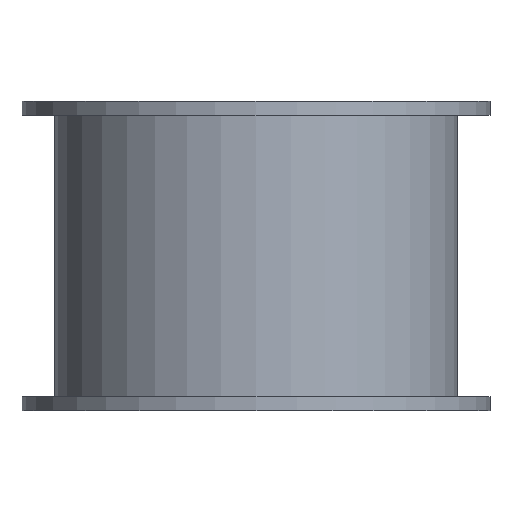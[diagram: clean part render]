
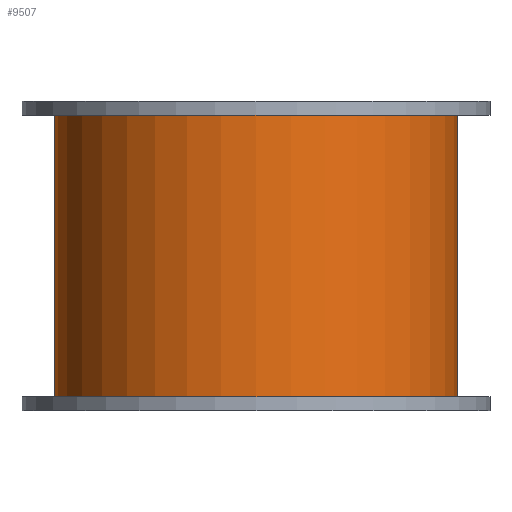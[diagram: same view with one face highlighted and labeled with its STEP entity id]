
A CAD part, front view. The second image highlights one B-rep face of the part: STEP entity #9507.
In plain terms, the highlighted cylindrical face has radius 21.475 mm (diameter 42.95 mm), a full revolution.
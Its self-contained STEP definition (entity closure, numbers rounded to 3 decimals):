
#7331 = PLANE('',#7332);
#7332 = AXIS2_PLACEMENT_3D('',#7333,#7334,#7335);
#7333 = CARTESIAN_POINT('',(0.,1.,-1.4));
#7334 = DIRECTION('',(0.,0.,1.));
#7335 = DIRECTION('',(1.,0.,0.));
#9375 = EDGE_CURVE('',#9376,#9376,#9378,.T.);
#9376 = VERTEX_POINT('',#9377);
#9377 = CARTESIAN_POINT('',(21.475,1.,-1.4));
#9378 = SURFACE_CURVE('',#9379,(#9384,#9391),.PCURVE_S1.);
#9379 = CIRCLE('',#9380,21.475);
#9380 = AXIS2_PLACEMENT_3D('',#9381,#9382,#9383);
#9381 = CARTESIAN_POINT('',(0.,1.,-1.4));
#9382 = DIRECTION('',(0.,0.,1.));
#9383 = DIRECTION('',(1.,0.,0.));
#9384 = PCURVE('',#7331,#9385);
#9385 = DEFINITIONAL_REPRESENTATION('',(#9386),#9390);
#9386 = CIRCLE('',#9387,21.475);
#9387 = AXIS2_PLACEMENT_2D('',#9388,#9389);
#9388 = CARTESIAN_POINT('',(0.,0.));
#9389 = DIRECTION('',(1.,0.));
#9390 = ( GEOMETRIC_REPRESENTATION_CONTEXT(2) 
PARAMETRIC_REPRESENTATION_CONTEXT() REPRESENTATION_CONTEXT('2D SPACE',''
  ) );
#9391 = PCURVE('',#9392,#9397);
#9392 = CYLINDRICAL_SURFACE('',#9393,21.475);
#9393 = AXIS2_PLACEMENT_3D('',#9394,#9395,#9396);
#9394 = CARTESIAN_POINT('',(0.,1.,
    -258.718));
#9395 = DIRECTION('',(0.,0.,1.));
#9396 = DIRECTION('',(1.,0.,0.));
#9397 = DEFINITIONAL_REPRESENTATION('',(#9398),#9402);
#9398 = LINE('',#9399,#9400);
#9399 = CARTESIAN_POINT('',(0.,257.318));
#9400 = VECTOR('',#9401,1.);
#9401 = DIRECTION('',(1.,0.));
#9402 = ( GEOMETRIC_REPRESENTATION_CONTEXT(2) 
PARAMETRIC_REPRESENTATION_CONTEXT() REPRESENTATION_CONTEXT('2D SPACE',''
  ) );
#9507 = ADVANCED_FACE('',(#9508),#9392,.T.);
#9508 = FACE_BOUND('',#9509,.T.);
#9509 = EDGE_LOOP('',(#9510,#9511,#9533,#9564));
#9510 = ORIENTED_EDGE('',*,*,#9375,.F.);
#9511 = ORIENTED_EDGE('',*,*,#9512,.F.);
#9512 = EDGE_CURVE('',#9513,#9376,#9515,.T.);
#9513 = VERTEX_POINT('',#9514);
#9514 = CARTESIAN_POINT('',(21.475,1.,
    -31.5));
#9515 = SEAM_CURVE('',#9516,(#9519,#9526),.PCURVE_S1.);
#9516 = B_SPLINE_CURVE_WITH_KNOTS('',1,(#9517,#9518),.UNSPECIFIED.,.F.,
  .F.,(2,2),(227.218,257.318),.PIECEWISE_BEZIER_KNOTS.);
#9517 = CARTESIAN_POINT('',(21.475,1.,
    -31.5));
#9518 = CARTESIAN_POINT('',(21.475,1.,-1.4));
#9519 = PCURVE('',#9392,#9520);
#9520 = DEFINITIONAL_REPRESENTATION('',(#9521),#9525);
#9521 = LINE('',#9522,#9523);
#9522 = CARTESIAN_POINT('',(0.,0.));
#9523 = VECTOR('',#9524,1.);
#9524 = DIRECTION('',(0.,1.));
#9525 = ( GEOMETRIC_REPRESENTATION_CONTEXT(2) 
PARAMETRIC_REPRESENTATION_CONTEXT() REPRESENTATION_CONTEXT('2D SPACE',''
  ) );
#9526 = PCURVE('',#9392,#9527);
#9527 = DEFINITIONAL_REPRESENTATION('',(#9528),#9532);
#9528 = LINE('',#9529,#9530);
#9529 = CARTESIAN_POINT('',(6.283,0.));
#9530 = VECTOR('',#9531,1.);
#9531 = DIRECTION('',(0.,1.));
#9532 = ( GEOMETRIC_REPRESENTATION_CONTEXT(2) 
PARAMETRIC_REPRESENTATION_CONTEXT() REPRESENTATION_CONTEXT('2D SPACE',''
  ) );
#9533 = ORIENTED_EDGE('',*,*,#9534,.T.);
#9534 = EDGE_CURVE('',#9513,#9513,#9535,.T.);
#9535 = SURFACE_CURVE('',#9536,(#9541,#9548),.PCURVE_S1.);
#9536 = CIRCLE('',#9537,21.475);
#9537 = AXIS2_PLACEMENT_3D('',#9538,#9539,#9540);
#9538 = CARTESIAN_POINT('',(0.,1.,
    -31.5));
#9539 = DIRECTION('',(0.,0.,1.));
#9540 = DIRECTION('',(1.,0.,0.));
#9541 = PCURVE('',#9392,#9542);
#9542 = DEFINITIONAL_REPRESENTATION('',(#9543),#9547);
#9543 = LINE('',#9544,#9545);
#9544 = CARTESIAN_POINT('',(0.,227.218));
#9545 = VECTOR('',#9546,1.);
#9546 = DIRECTION('',(1.,-0.));
#9547 = ( GEOMETRIC_REPRESENTATION_CONTEXT(2) 
PARAMETRIC_REPRESENTATION_CONTEXT() REPRESENTATION_CONTEXT('2D SPACE',''
  ) );
#9548 = PCURVE('',#9549,#9554);
#9549 = PLANE('',#9550);
#9550 = AXIS2_PLACEMENT_3D('',#9551,#9552,#9553);
#9551 = CARTESIAN_POINT('',(0.,1.,
    -31.5));
#9552 = DIRECTION('',(0.,0.,-1.));
#9553 = DIRECTION('',(1.,0.,0.));
#9554 = DEFINITIONAL_REPRESENTATION('',(#9555),#9563);
#9555 = ( BOUNDED_CURVE() B_SPLINE_CURVE(2,(#9556,#9557,#9558,#9559,
#9560,#9561,#9562),.UNSPECIFIED.,.T.,.F.) B_SPLINE_CURVE_WITH_KNOTS((1,2
    ,2,2,2,1),(-2.094,0.,2.094,4.189,
6.283,8.378),.UNSPECIFIED.) CURVE() 
GEOMETRIC_REPRESENTATION_ITEM() RATIONAL_B_SPLINE_CURVE((1.,0.5,1.,0.5,
1.,0.5,1.)) REPRESENTATION_ITEM('') );
#9556 = CARTESIAN_POINT('',(21.475,0.));
#9557 = CARTESIAN_POINT('',(21.475,-37.196));
#9558 = CARTESIAN_POINT('',(-10.738,-18.598));
#9559 = CARTESIAN_POINT('',(-42.95,0.));
#9560 = CARTESIAN_POINT('',(-10.738,18.598));
#9561 = CARTESIAN_POINT('',(21.475,37.196));
#9562 = CARTESIAN_POINT('',(21.475,0.));
#9563 = ( GEOMETRIC_REPRESENTATION_CONTEXT(2) 
PARAMETRIC_REPRESENTATION_CONTEXT() REPRESENTATION_CONTEXT('2D SPACE',''
  ) );
#9564 = ORIENTED_EDGE('',*,*,#9512,.T.);
